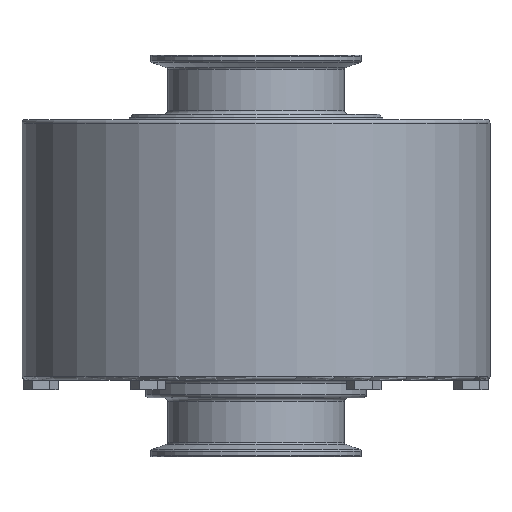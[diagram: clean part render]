
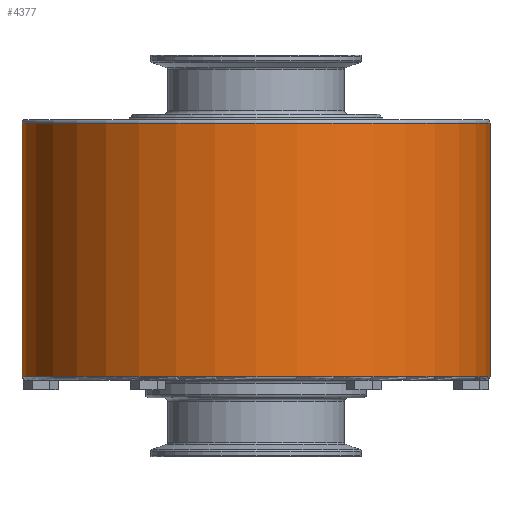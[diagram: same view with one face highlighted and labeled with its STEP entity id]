
A CAD part, front view. The second image highlights one B-rep face of the part: STEP entity #4377.
In plain terms, the highlighted cylindrical face has radius 100.813 mm (diameter 201.625 mm), a partial arc.
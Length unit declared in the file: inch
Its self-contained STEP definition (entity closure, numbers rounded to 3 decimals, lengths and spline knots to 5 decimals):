
#306 = LINE ( 'NONE', #337, #1354 ) ;
#337 = CARTESIAN_POINT ( 'NONE',  ( 3.969, 0., 0.93979 ) ) ;
#338 = DIRECTION ( 'NONE',  ( 0., 0., 1. ) ) ;
#342 = LINE ( 'NONE', #343, #1359 ) ;
#343 = CARTESIAN_POINT ( 'NONE',  ( -3.969, 0., 0.93979 ) ) ;
#344 = DIRECTION ( 'NONE',  ( 0., 0., 1. ) ) ;
#753 = CYLINDRICAL_SURFACE ( 'NONE', #1247, 3.969 ) ;
#754 = FACE_OUTER_BOUND ( 'NONE', #3323, .T. ) ;
#755 = CARTESIAN_POINT ( 'NONE',  ( 0., 0., 0.93979 ) ) ;
#757 = DIRECTION ( 'NONE',  ( 0., 0., 1. ) ) ;
#758 = DIRECTION ( 'NONE',  ( 1., 0., 0. ) ) ;
#1018 = CIRCLE ( 'NONE', #1076, 3.969 ) ;
#1049 = AXIS2_PLACEMENT_3D ( 'NONE', #5080, #5081, #5082 ) ;
#1053 = CIRCLE ( 'NONE', #1049, 3.969 ) ;
#1076 = AXIS2_PLACEMENT_3D ( 'NONE', #5077, #5078, #5079 ) ;
#1247 = AXIS2_PLACEMENT_3D ( 'NONE', #755, #757, #758 ) ;
#1354 = VECTOR ( 'NONE', #338, 39.37008 ) ;
#1359 = VECTOR ( 'NONE', #344, 39.37008 ) ;
#2880 = ORIENTED_EDGE ( 'NONE', *, *, #4428, .F. ) ;
#2881 = ORIENTED_EDGE ( 'NONE', *, *, #4060, .T. ) ;
#2882 = ORIENTED_EDGE ( 'NONE', *, *, #4426, .T. ) ;
#2883 = ORIENTED_EDGE ( 'NONE', *, *, #4061, .T. ) ;
#3323 = EDGE_LOOP ( 'NONE', ( #2880, #2881, #2882, #2883 ) ) ;
#3907 = CARTESIAN_POINT ( 'NONE',  ( 3.969, 0., -1.15 ) ) ;
#3941 = CARTESIAN_POINT ( 'NONE',  ( 3.969, 0., -5.45 ) ) ;
#3944 = CARTESIAN_POINT ( 'NONE',  ( -3.969, 0., -5.45 ) ) ;
#3951 = CARTESIAN_POINT ( 'NONE',  ( -3.969, 0., -1.15 ) ) ;
#4060 = EDGE_CURVE ( 'NONE', #4816, #4813, #1018, .T. ) ;
#4061 = EDGE_CURVE ( 'NONE', #4786, #4823, #1053, .T. ) ;
#4377 = ADVANCED_FACE ( 'NONE', ( #754 ), #753, .T. ) ;
#4426 = EDGE_CURVE ( 'NONE', #4813, #4786, #306, .T. ) ;
#4428 = EDGE_CURVE ( 'NONE', #4816, #4823, #342, .T. ) ;
#4786 = VERTEX_POINT ( 'NONE', #3907 ) ;
#4813 = VERTEX_POINT ( 'NONE', #3941 ) ;
#4816 = VERTEX_POINT ( 'NONE', #3944 ) ;
#4823 = VERTEX_POINT ( 'NONE', #3951 ) ;
#5077 = CARTESIAN_POINT ( 'NONE',  ( 0., 0., -5.45 ) ) ;
#5078 = DIRECTION ( 'NONE',  ( 0., 0., 1. ) ) ;
#5079 = DIRECTION ( 'NONE',  ( 1., 0., 0. ) ) ;
#5080 = CARTESIAN_POINT ( 'NONE',  ( 0., 0., -1.15 ) ) ;
#5081 = DIRECTION ( 'NONE',  ( 0., 0., -1. ) ) ;
#5082 = DIRECTION ( 'NONE',  ( -1., 0., 0. ) ) ;
